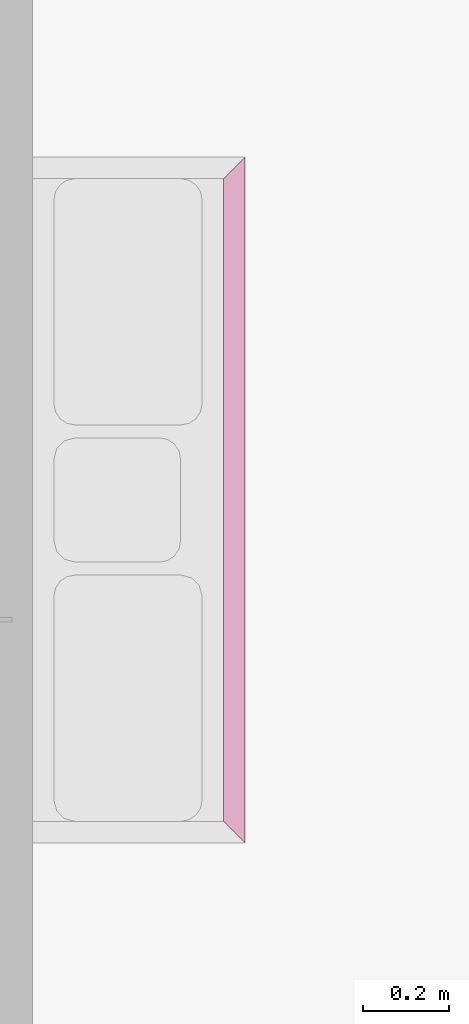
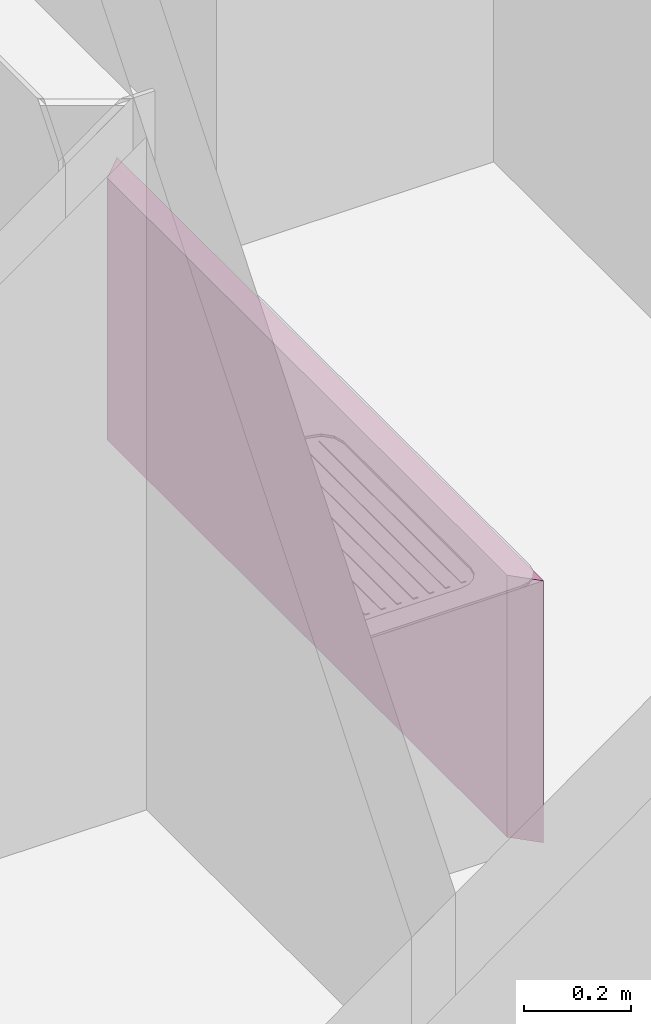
# One storey, part 10 of 17: 1 furnishing.
"""IFC2X3 building model written with IfcOpenShell, lengths in millimetres."""

import ifcopenshell
import ifcopenshell.guid

model = None  # the IFC model being written
_history = None  # IfcOwnerHistory: only IFC2X3 demands one
_inside = {}  # id of a spatial element -> (the spatial element, [elements in it])
_under = {}  # id of a project, library or spatial element -> (it, [spatial elements below it])
_declared = {}  # id of a project -> (the project, [libraries it declares])
_typed = {}  # id of a type object -> (the type object, [elements of that type])
_made_of = {}  # id of a material, layer set ... -> (it, [elements and type objects made of it])


def new_model(schema):
    """Start an empty IFC model of exactly this schema.

    Asked for "IFC4X3", IfcOpenShell would pick the latest addendum, in which some entities
    have other attributes; the version numbers below select the first issue.
    IFC2X3 requires an IfcOwnerHistory on every rooted entity: one is made here for all.
    """
    global model, _history
    if schema == "IFC4X3":
        model = ifcopenshell.file(schema_version=(4, 3, 0, 0))
    else:
        model = ifcopenshell.file(schema=schema)
    _inside.clear()
    _under.clear()
    _declared.clear()
    _typed.clear()
    _made_of.clear()
    _history = None
    if model.schema == "IFC2X3":
        org = make("IfcOrganization", Name="unknown")
        user = make(
            "IfcPersonAndOrganization",
            ThePerson=make("IfcPerson", FamilyName="unknown"),
            TheOrganization=org,
        )
        app = make(
            "IfcApplication",
            ApplicationDeveloper=org,
            Version="unknown",
            ApplicationFullName="unknown",
            ApplicationIdentifier="unknown",
        )
        _history = make(
            "IfcOwnerHistory",
            OwningUser=user,
            OwningApplication=app,
            ChangeAction="ADDED",
            CreationDate=0,
        )
    return model


def make(cls, **values):
    """One entity of the class cls with the attributes given. An attribute that is None is left unset."""
    return model.create_entity(
        cls, **{name: value for name, value in values.items() if value is not None}
    )


def entity(cls, *values):
    """Any entity or typed value of the class cls, its attributes in the order of the schema. None: left unset."""
    e = model.create_entity(cls)
    for i, value in enumerate(values):
        if value is not None:
            e[i] = value
    return e


def rooted(cls, **values):
    """An entity with a GlobalId (a new one), such as an element, a storey or a relation."""
    return make(cls, GlobalId=ifcopenshell.guid.new(), OwnerHistory=_history, **values)


def si_unit(unit_type, name, prefix=None):
    """IfcSIUnit, for example si_unit("LENGTHUNIT", "METRE", prefix="MILLI")."""
    return make("IfcSIUnit", UnitType=unit_type, Prefix=prefix, Name=name)


def converted_unit(unit_type, name, factor, base, dimensions=None, offset=None):
    """IfcConversionBasedUnit, such as the inch: factor (a typed value) times the base unit."""
    return make(
        "IfcConversionBasedUnit"
        if offset is None
        else "IfcConversionBasedUnitWithOffset",
        ConversionOffset=offset,
        Dimensions=None
        if dimensions is None
        else entity("IfcDimensionalExponents", *dimensions),
        UnitType=unit_type,
        Name=name,
        ConversionFactor=make(
            "IfcMeasureWithUnit", ValueComponent=factor, UnitComponent=base
        ),
    )


def assignment(units):
    """IfcUnitAssignment: the units of a project."""
    return None if units is None else make("IfcUnitAssignment", Units=units)


def point(xyz):
    """IfcCartesianPoint."""
    return None if xyz is None else make("IfcCartesianPoint", Coordinates=xyz)


def direction(xyz):
    """IfcDirection."""
    return None if xyz is None else make("IfcDirection", DirectionRatios=xyz)


def frame(location, z_axis=None, x_axis=None):
    """IfcAxis2Placement3D, a coordinate frame: its origin and axes. An axis left out is left unset."""
    return make(
        "IfcAxis2Placement3D",
        Location=point(location),
        Axis=direction(z_axis),
        RefDirection=direction(x_axis),
    )


def origin_with_axes():
    """The frame at (0, 0, 0) with the z axis (0, 0, 1) and the x axis (1, 0, 0) written out."""
    return frame((0.0, 0.0, 0.0), z_axis=(0.0, 0.0, 1.0), x_axis=(1.0, 0.0, 0.0))


def place(relative_to, where):
    """IfcLocalPlacement: puts the frame where relative to a parent placement (None: the world)."""
    return make(
        "IfcLocalPlacement", PlacementRelTo=relative_to, RelativePlacement=where
    )


def context(
    kind, dimensions, precision=None, world=None, true_north=None, identifier=None
):
    """IfcGeometricRepresentationContext, for example the 3D "Model" context."""
    return make(
        "IfcGeometricRepresentationContext",
        ContextIdentifier=identifier,
        ContextType=kind,
        CoordinateSpaceDimension=dimensions,
        Precision=precision,
        WorldCoordinateSystem=world,
        TrueNorth=true_north,
    )


def project(units=None, contexts=None):
    """IfcProject with its units and contexts."""
    return rooted(
        "IfcProject",
        Name="project",
        RepresentationContexts=contexts,
        UnitsInContext=assignment(units),
    )


def spatial(cls, under=None, at=None, **own):
    """A site, building, storey or space (cls), placed at a placement, below another one or the project."""
    s = rooted(cls, ObjectPlacement=at, **own)
    if under is not None:
        _under.setdefault(under.id(), (under, []))[1].append(s)
    return s


def polyline(points):
    """IfcPolyline through the points."""
    return make("IfcPolyline", Points=[point(p) for p in points])


def outline(outer, holes=None, kind="AREA"):
    """IfcArbitraryClosedProfileDef: a profile drawn as a closed curve; with holes, ...WithVoids."""
    if holes is None:
        return make("IfcArbitraryClosedProfileDef", ProfileType=kind, OuterCurve=outer)
    return make(
        "IfcArbitraryProfileDefWithVoids",
        ProfileType=kind,
        OuterCurve=outer,
        InnerCurves=holes,
    )


def extrude(swept, where, along, depth):
    """IfcExtrudedAreaSolid: the profile swept, set in the frame where, extruded along a direction by depth."""
    return make(
        "IfcExtrudedAreaSolid",
        SweptArea=swept,
        Position=where,
        ExtrudedDirection=direction(along),
        Depth=depth,
    )


def shape(context_of_items, identifier, shape_type, items):
    """IfcShapeRepresentation: the items that make up one representation, for example the "Body"."""
    return make(
        "IfcShapeRepresentation",
        ContextOfItems=context_of_items,
        RepresentationIdentifier=identifier,
        RepresentationType=shape_type,
        Items=items,
    )


def material(Name=None, Category=None):
    """IfcMaterial."""
    return make("IfcMaterial", Name=Name, Category=Category)


def made_of(thing, what):
    """Note that an element or type object is made of a material, layer set ...; save() writes the relation."""
    if what is not None:
        _made_of.setdefault(what.id(), (what, []))[1].append(thing)
    return thing


def type_object(cls, material=None, **own):
    """A type object (cls), such as IfcWallType, which elements share."""
    return made_of(rooted(cls, **own), material)


def element(
    cls,
    number,
    at=None,
    inside=None,
    cuts=None,
    type_object=None,
    material=None,
    context=None,
    identifier="Body",
    shape_type=None,
    held_by="IfcProductDefinitionShape",
    body=None,
    shapes=None,
    **own,
):
    """One element of the class cls, such as IfcWall. Its Tag is "e" and its number.

    at: its placement. inside: the storey or other place that contains it. cuts: it is an
    opening in that element (IfcRelVoidsElement). A single representation is given by context,
    identifier, shape_type and body (its items); several are given by shapes. held_by: the class
    of the entity that holds the representations. save() writes the other relations.
    """
    e = rooted(cls, Tag="e%d" % number, ObjectPlacement=at, **own)
    if body is not None:
        shapes = [shape(context, identifier, shape_type, body)]
    if shapes is not None:
        e.Representation = make(held_by, Representations=shapes)
    if inside is not None:
        _inside.setdefault(inside.id(), (inside, []))[1].append(e)
    if cuts is not None:
        rooted(
            "IfcRelVoidsElement", RelatingBuildingElement=cuts, RelatedOpeningElement=e
        )
    if type_object is not None:
        _typed.setdefault(type_object.id(), (type_object, []))[1].append(e)
    return made_of(e, material)


def aggregate(whole, parts):
    """IfcRelAggregates: a whole, such as a stair, and the parts it consists of."""
    return rooted("IfcRelAggregates", RelatingObject=whole, RelatedObjects=parts)


def save(model, path):
    """Write the relations noted so far, then the file.

    IfcRelAggregates (storeys below a building ...), IfcRelContainedInSpatialStructure (elements
    in a storey), IfcRelDefinesByType, IfcRelAssociatesMaterial and IfcRelDeclares: one each for
    every whole, place, type object, material and project.
    """
    for whole, parts in _under.values():
        aggregate(whole, parts)
    for where, things in _inside.values():
        rooted(
            "IfcRelContainedInSpatialStructure",
            RelatedElements=things,
            RelatingStructure=where,
        )
    for kind, things in _typed.values():
        rooted("IfcRelDefinesByType", RelatedObjects=things, RelatingType=kind)
    for what, things in _made_of.values():
        rooted("IfcRelAssociatesMaterial", RelatedObjects=things, RelatingMaterial=what)
    for by, libraries in _declared.values():
        rooted("IfcRelDeclares", RelatingContext=by, RelatedDefinitions=libraries)
    model.write(path)


model = new_model("IFC2X3")

# Units and contexts
model_context = context("Model", 3, precision=1e-05, world=origin_with_axes(), true_north=direction((0.0, 1.0)))
ifc_project = project(units=[si_unit("LENGTHUNIT", "METRE", prefix="MILLI"), si_unit("AREAUNIT", "SQUARE_METRE"), si_unit("VOLUMEUNIT", "CUBIC_METRE"), converted_unit("PLANEANGLEUNIT", "DEGREE", entity("IfcPlaneAngleMeasure", 0.017453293), si_unit("PLANEANGLEUNIT", "RADIAN"), dimensions=[0, 0, 0, 0, 0, 0, 0]), si_unit("SOLIDANGLEUNIT", "STERADIAN"), si_unit("MASSUNIT", "GRAM"), si_unit("TIMEUNIT", "SECOND"), si_unit("THERMODYNAMICTEMPERATUREUNIT", "DEGREE_CELSIUS"), si_unit("LUMINOUSINTENSITYUNIT", "LUMEN")], contexts=[model_context])

# Site, building, storey
site_placement = place(None, origin_with_axes())
site = spatial("IfcSite", under=ifc_project, at=site_placement, Name="\x83T\x83C\x83g", CompositionType="ELEMENT")
building_placement = place(site_placement, origin_with_axes())
building = spatial("IfcBuilding", under=site, at=building_placement, Name="Daitec-Sample 201208", CompositionType="ELEMENT")
storey_placement = place(building_placement, origin_with_axes())
storey = spatial("IfcBuildingStorey", under=building, at=storey_placement, Name="1F", CompositionType="ELEMENT", Elevation=0.0)

# Furnishing
ifc_material = material()
furniture_type = type_object("IfcFurnitureType", AssemblyPlace="NOTDEFINED")
furnishing_placement = place(storey_placement, frame((23667.276, 21024.447, 0.0), z_axis=(0.0, 0.0, 1.0), x_axis=(0.0, 1.0, 0.0)))
element("IfcFurnishingElement", 1, at=furnishing_placement, inside=storey, type_object=furniture_type, material=ifc_material, Name="W4", context=model_context, shape_type="SweptSolid", body=[
    extrude(outline(polyline([(0.0, 0.0), (1600.0, 0.0), (1550.0, 50.0), (50.0, 50.0), (0.0, 0.0)])), origin_with_axes(), (0.0, 0.0, 1.0), 600.0),
])

save(model, "model.ifc")
